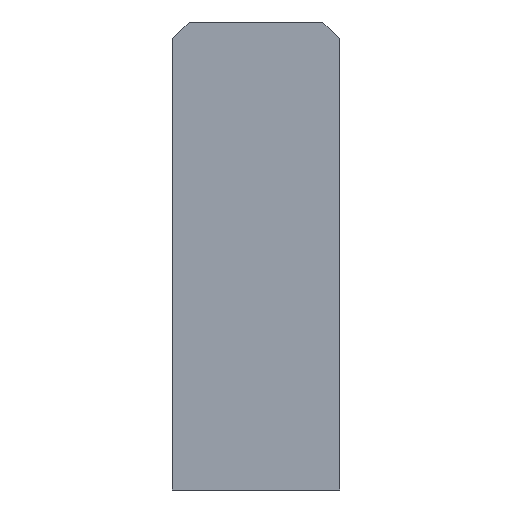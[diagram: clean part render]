
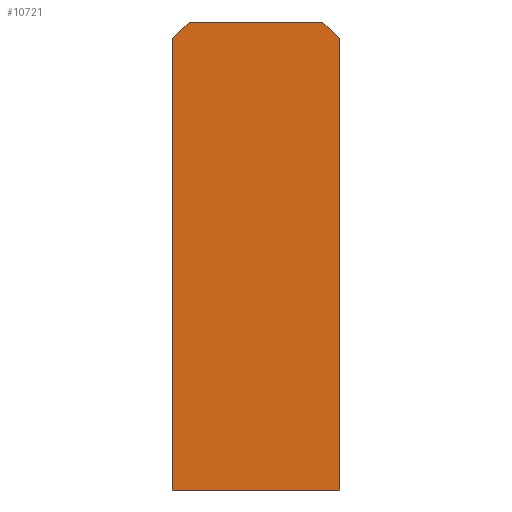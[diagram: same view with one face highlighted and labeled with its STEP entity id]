
A CAD part, left-side view. The second image highlights one B-rep face of the part: STEP entity #10721.
In plain terms, the highlighted planar face has unit normal (-1, 0, 0).
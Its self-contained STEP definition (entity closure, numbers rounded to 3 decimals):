
#1690=LINE('',#12918,#2044);
#1694=LINE('',#12925,#2048);
#1700=LINE('',#12937,#2054);
#1702=LINE('',#12941,#2056);
#1703=LINE('',#12944,#2057);
#1705=LINE('',#12947,#2059);
#2044=VECTOR('',#11943,1.414);
#2048=VECTOR('',#11949,8.);
#2054=VECTOR('',#11959,1.414);
#2056=VECTOR('',#11963,27.);
#2057=VECTOR('',#11966,10.);
#2059=VECTOR('',#11970,27.);
#2522=FACE_OUTER_BOUND('',#3298,.T.);
#3298=EDGE_LOOP('',(#6720,#6721,#6722,#6723,#6724,#6725));
#4177=VERTEX_POINT('',#12915);
#4178=VERTEX_POINT('',#12917);
#4180=VERTEX_POINT('',#12923);
#4184=VERTEX_POINT('',#12935);
#4185=VERTEX_POINT('',#12939);
#4186=VERTEX_POINT('',#12943);
#5069=EDGE_CURVE('',#4177,#4178,#1690,.T.);
#5073=EDGE_CURVE('',#4180,#4177,#1694,.T.);
#5079=EDGE_CURVE('',#4184,#4180,#1700,.T.);
#5081=EDGE_CURVE('',#4185,#4184,#1702,.T.);
#5082=EDGE_CURVE('',#4186,#4185,#1703,.T.);
#5084=EDGE_CURVE('',#4178,#4186,#1705,.T.);
#6720=ORIENTED_EDGE('',*,*,#5069,.F.);
#6721=ORIENTED_EDGE('',*,*,#5073,.F.);
#6722=ORIENTED_EDGE('',*,*,#5079,.F.);
#6723=ORIENTED_EDGE('',*,*,#5081,.F.);
#6724=ORIENTED_EDGE('',*,*,#5082,.F.);
#6725=ORIENTED_EDGE('',*,*,#5084,.F.);
#9784=PLANE('',#11544);
#10721=ADVANCED_FACE('',(#2522),#9784,.F.);
#11544=AXIS2_PLACEMENT_3D('',#12948,#11971,#11972);
#11943=DIRECTION('',(0.,-0.707,-0.707));
#11949=DIRECTION('',(0.,-1.,0.));
#11959=DIRECTION('',(0.,-0.707,0.707));
#11963=DIRECTION('',(0.,0.,1.));
#11966=DIRECTION('',(0.,1.,0.));
#11970=DIRECTION('',(0.,0.,-1.));
#11971=DIRECTION('center_axis',(1.,0.,0.));
#11972=DIRECTION('ref_axis',(0.,-1.,0.));
#12915=CARTESIAN_POINT('',(-6.125,-4.,0.));
#12917=CARTESIAN_POINT('',(-6.125,-5.,-1.));
#12918=CARTESIAN_POINT('',(-6.125,-6.75,-2.75));
#12923=CARTESIAN_POINT('',(-6.125,4.,0.));
#12925=CARTESIAN_POINT('',(-6.125,5.,0.));
#12935=CARTESIAN_POINT('',(-6.125,5.,-1.));
#12937=CARTESIAN_POINT('',(-6.125,6.75,-2.75));
#12939=CARTESIAN_POINT('',(-6.125,5.,-28.));
#12941=CARTESIAN_POINT('',(-6.125,5.,-28.));
#12943=CARTESIAN_POINT('',(-6.125,-5.,-28.));
#12944=CARTESIAN_POINT('',(-6.125,-5.,-28.));
#12947=CARTESIAN_POINT('',(-6.125,-5.,0.));
#12948=CARTESIAN_POINT('Origin',(-6.125,0.,-14.));
